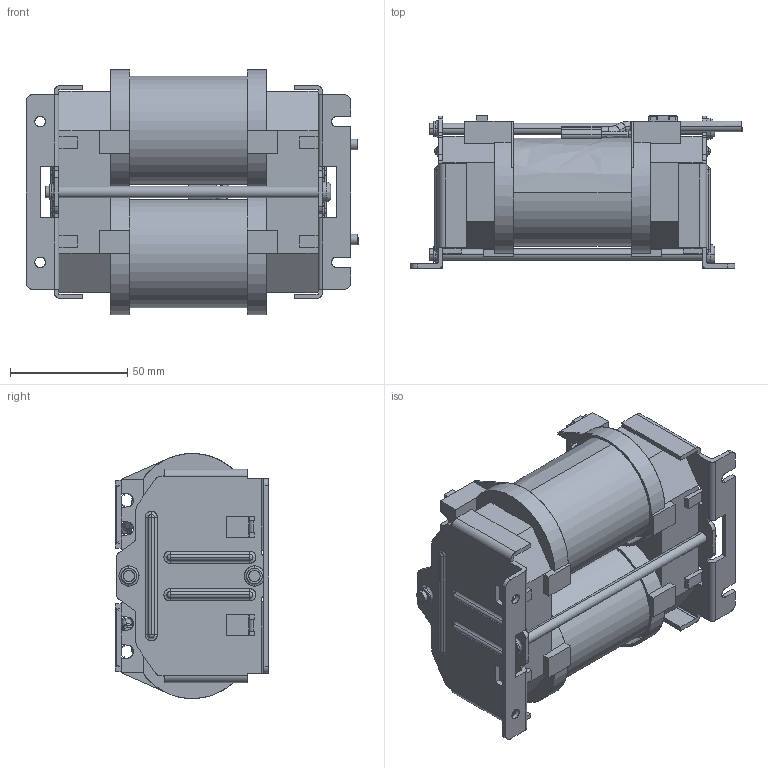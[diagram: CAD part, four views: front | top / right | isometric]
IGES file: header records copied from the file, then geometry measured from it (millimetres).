
Start section: SolidWorks IGES file using analytic representation for surfaces
Global section: file name: \\10.106.230.1\r&d file\05_COMP\02_Mechanical\10_Others\PV_RT 81\网络用3D模型\卧式模型\网络用模型\SP11229B-PH00SS20R(H-5KW_DCL-P).IGS,15HSolidWorks; native system: 2009; preprocessor: SolidWorks 2009; author: test; date: 120508.154447; units: millimetre
Bounding box: 141.5 x 65.25 x 104.5 mm (x, y, z)
Surface area: 121842.1 mm2 (no closed solid volume)
Topology: 0 solids, 0 shells, 801 faces, 9483 edges, 9460 vertices
Faces by surface type: bspline 513, revolution 288
